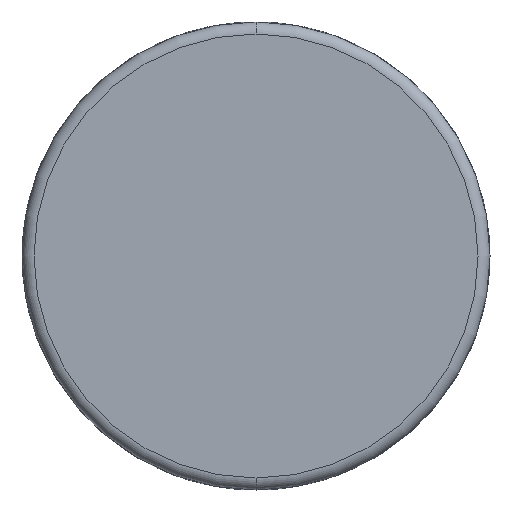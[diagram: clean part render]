
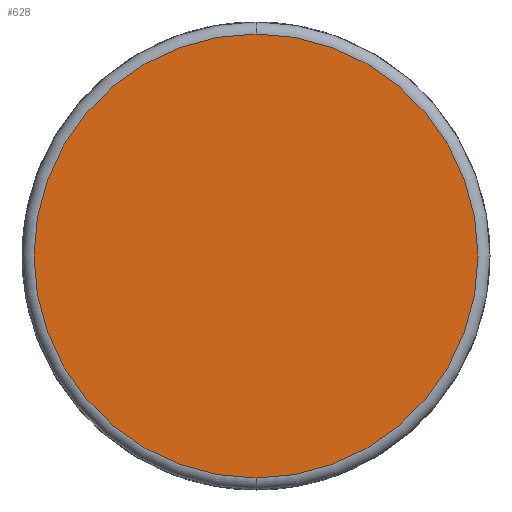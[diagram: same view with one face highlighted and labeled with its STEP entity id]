
A CAD part, front view. The second image highlights one B-rep face of the part: STEP entity #628.
In plain terms, the highlighted planar face has unit normal (0, -1, 0).
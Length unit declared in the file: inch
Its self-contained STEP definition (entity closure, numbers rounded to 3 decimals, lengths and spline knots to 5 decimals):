
#135 = EDGE_CURVE ( 'NONE', #136, #137, #1732, .T. ) ;
#136 = VERTEX_POINT ( 'NONE', #1723 ) ;
#137 = VERTEX_POINT ( 'NONE', #1722 ) ;
#628 = ADVANCED_FACE ( 'NONE', ( #2811 ), #2810, .F. ) ;
#629 = EDGE_LOOP ( 'NONE', ( #630, #632 ) ) ;
#630 = ORIENTED_EDGE ( 'NONE', *, *, #631, .T. ) ;
#631 = EDGE_CURVE ( 'NONE', #137, #136, #2804, .T. ) ;
#632 = ORIENTED_EDGE ( 'NONE', *, *, #135, .T. ) ;
#1722 = CARTESIAN_POINT ( 'NONE',  ( 0., 0., 1.11 ) ) ;
#1723 = CARTESIAN_POINT ( 'NONE',  ( 0., 0., -1.11 ) ) ;
#1724 = DIRECTION ( 'NONE',  ( 0., 0., 1. ) ) ;
#1725 = DIRECTION ( 'NONE',  ( 0., -1., 0. ) ) ;
#1726 = CARTESIAN_POINT ( 'NONE',  ( 0., 0., 0. ) ) ;
#1727 = AXIS2_PLACEMENT_3D ( 'NONE', #1726, #1725, #1724 ) ;
#1732 = CIRCLE ( 'NONE', #1727, 1.11 ) ;
#2801 = DIRECTION ( 'NONE',  ( 0., 0., 1. ) ) ;
#2802 = DIRECTION ( 'NONE',  ( 0., -1., 0. ) ) ;
#2803 = AXIS2_PLACEMENT_3D ( 'NONE', #2809, #2802, #2801 ) ;
#2804 = CIRCLE ( 'NONE', #2803, 1.11 ) ;
#2805 = DIRECTION ( 'NONE',  ( 0., 0., 1. ) ) ;
#2806 = DIRECTION ( 'NONE',  ( 0., 1., 0. ) ) ;
#2807 = CARTESIAN_POINT ( 'NONE',  ( 0., 0., 0. ) ) ;
#2808 = AXIS2_PLACEMENT_3D ( 'NONE', #2807, #2806, #2805 ) ;
#2809 = CARTESIAN_POINT ( 'NONE',  ( 0., 0., 0. ) ) ;
#2810 = PLANE ( 'NONE',  #2808 ) ;
#2811 = FACE_OUTER_BOUND ( 'NONE', #629, .T. ) ;
